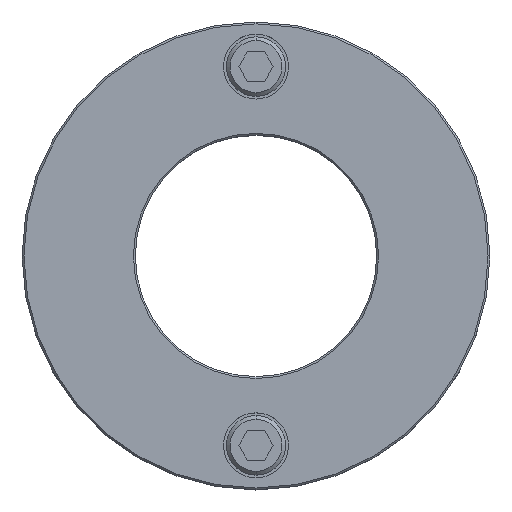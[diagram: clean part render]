
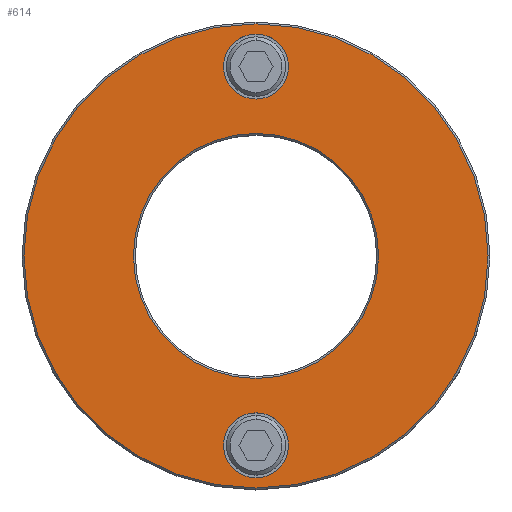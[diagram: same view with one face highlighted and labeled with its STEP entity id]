
A CAD part, top view. The second image highlights one B-rep face of the part: STEP entity #614.
In plain terms, the highlighted planar face has unit normal (0, 0, 1).
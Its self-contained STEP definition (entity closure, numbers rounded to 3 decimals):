
#105=VERTEX_POINT(' ',#106);
#106=CARTESIAN_POINT('',(0.,42.25,20.));
#107=VERTEX_POINT(' ',#108);
#108=CARTESIAN_POINT('',(0.,59.75,20.));
#113=VERTEX_POINT(' ',#114);
#114=CARTESIAN_POINT('',(0.,-59.75,20.));
#115=VERTEX_POINT(' ',#116);
#116=CARTESIAN_POINT('',(0.,-42.25,20.));
#123=VERTEX_POINT(' ',#124);
#124=CARTESIAN_POINT('',(0.,62.5,20.));
#125=VERTEX_POINT(' ',#126);
#126=CARTESIAN_POINT('',(0.,-62.5,20.));
#129=VERTEX_POINT(' ',#130);
#130=CARTESIAN_POINT('',(0.,-33.,20.));
#131=VERTEX_POINT(' ',#132);
#132=CARTESIAN_POINT('',(0.,33.,20.));
#221=CIRCLE('',#222,8.75);
#222=AXIS2_PLACEMENT_3D('',#223,#224,#225);
#223=CARTESIAN_POINT('',(0.,51.,20.));
#224=DIRECTION('',(0.,0.,-1.));
#225=DIRECTION('',(-1.,0.,0.));
#226=EDGE_CURVE(' ',#105,#107,#221,.F.);
#243=CIRCLE('',#244,8.75);
#244=AXIS2_PLACEMENT_3D('',#245,#246,#247);
#245=CARTESIAN_POINT('',(0.,51.,20.));
#246=DIRECTION('',(0.,0.,-1.));
#247=DIRECTION('',(1.,0.,0.));
#248=EDGE_CURVE(' ',#107,#105,#243,.F.);
#255=CIRCLE('',#256,8.75);
#256=AXIS2_PLACEMENT_3D('',#257,#258,#259);
#257=CARTESIAN_POINT('',(0.,-51.,20.));
#258=DIRECTION('',(0.,0.,-1.));
#259=DIRECTION('',(-1.,0.,0.));
#260=EDGE_CURVE(' ',#113,#115,#255,.F.);
#277=CIRCLE('',#278,8.75);
#278=AXIS2_PLACEMENT_3D('',#279,#280,#281);
#279=CARTESIAN_POINT('',(0.,-51.,20.));
#280=DIRECTION('',(0.,0.,-1.));
#281=DIRECTION('',(1.,0.,0.));
#282=EDGE_CURVE(' ',#115,#113,#277,.F.);
#294=CIRCLE('',#295,62.5);
#295=AXIS2_PLACEMENT_3D('',#296,#297,#298);
#296=CARTESIAN_POINT('',(0.,0.,20.));
#297=DIRECTION('',(0.,0.,1.));
#298=DIRECTION('',(-1.,0.,0.));
#299=EDGE_CURVE(' ',#123,#125,#294,.F.);
#317=CIRCLE('',#318,62.5);
#318=AXIS2_PLACEMENT_3D('',#319,#320,#321);
#319=CARTESIAN_POINT('',(0.,0.,20.));
#320=DIRECTION('',(0.,0.,1.));
#321=DIRECTION('',(1.,0.,0.));
#322=EDGE_CURVE(' ',#125,#123,#317,.F.);
#323=CIRCLE('',#324,33.);
#324=AXIS2_PLACEMENT_3D('',#325,#326,#327);
#325=CARTESIAN_POINT('',(0.,0.,20.));
#326=DIRECTION('',(0.,0.,-1.));
#327=DIRECTION('',(1.,0.,0.));
#328=EDGE_CURVE(' ',#131,#129,#323,.F.);
#329=CIRCLE('',#330,33.);
#330=AXIS2_PLACEMENT_3D('',#331,#332,#333);
#331=CARTESIAN_POINT('',(0.,0.,20.));
#332=DIRECTION('',(0.,0.,-1.));
#333=DIRECTION('',(-1.,0.,0.));
#334=EDGE_CURVE(' ',#129,#131,#329,.F.);
#593=ORIENTED_EDGE('',*,*,#299,.F.);
#594=ORIENTED_EDGE('',*,*,#322,.F.);
#595=EDGE_LOOP('',(#593,#594));
#596=FACE_OUTER_BOUND('',#595,.T.);
#597=ORIENTED_EDGE('',*,*,#328,.F.);
#598=ORIENTED_EDGE('',*,*,#334,.F.);
#599=EDGE_LOOP('',(#597,#598));
#600=FACE_BOUND('',#599,.T.);
#601=ORIENTED_EDGE('',*,*,#282,.F.);
#602=ORIENTED_EDGE('',*,*,#260,.F.);
#603=EDGE_LOOP('',(#601,#602));
#604=FACE_BOUND('',#603,.T.);
#605=ORIENTED_EDGE('',*,*,#248,.F.);
#606=ORIENTED_EDGE('',*,*,#226,.F.);
#607=EDGE_LOOP('',(#605,#606));
#608=FACE_BOUND('',#607,.T.);
#609=PLANE('',#610);
#610=AXIS2_PLACEMENT_3D('',#611,#612,#613);
#611=CARTESIAN_POINT('',(63.,0.,20.));
#612=DIRECTION('',(0.,0.,1.));
#613=DIRECTION('',(0.,1.,0.));
#614=ADVANCED_FACE('',(#596,#600,#604,#608),#609,.T.);
